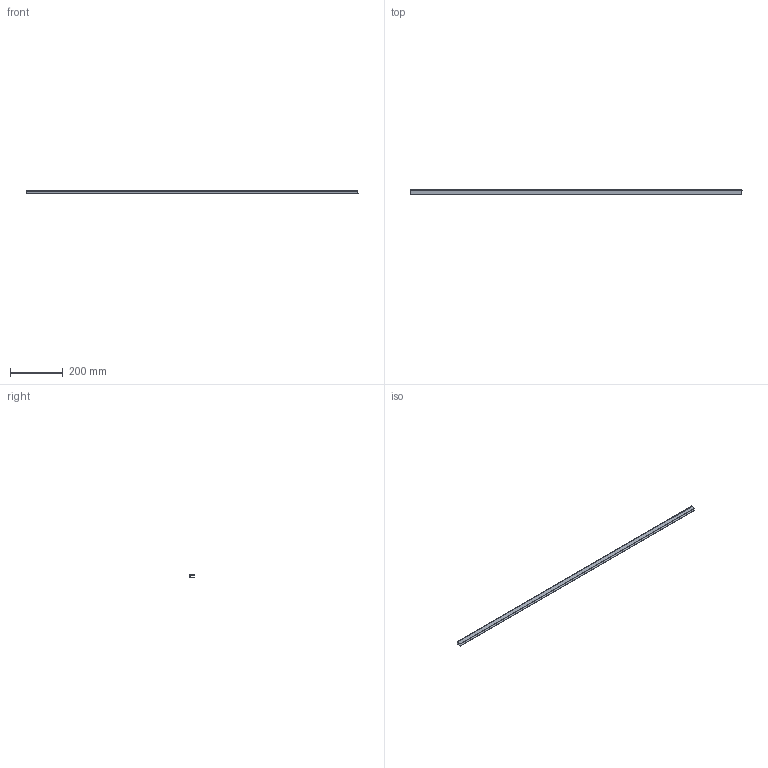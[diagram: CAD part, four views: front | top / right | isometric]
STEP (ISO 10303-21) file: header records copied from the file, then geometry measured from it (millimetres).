
FILE_DESCRIPTION(/* description */ (''),/* implementation_level */ '2;1');
FILE_NAME(/* name */ 'Pos122-GLASLAT T.B.V. PV-SCHERM-Aluminium-4st',/* time_stamp */ '2024-08-06T11:49:43+02:00',/* author */ (''),/* organization */ (''),/* preprocessor_version */ 'ST-DEVELOPER v16.5',/* originating_system */ 'HiCAD 2024 2901.2 Build 361',/* authorisation */ '');
FILE_SCHEMA (('AUTOMOTIVE_DESIGN { 1 0 10303 214 1 1 1 1 }'));
Length unit declared in the file: millimetre
Products named in the file (1): Pos122-GLASLAT T.B.V. PV-SCHERM-Aluminium-4st
Bounding box: 1255 x 17 x 12.5 mm (x, y, z)
Volume: 69652.5 mm3; surface area: 113061 mm2
Topology: 1 solids, 1 shells, 12 faces, 30 edges, 20 vertices
Faces by surface type: plane 12
Entity records: 672 total; most frequent: CARTESIAN_POINT 62, PRESENTATION_STYLE_ASSIGNMENT 61, COLOUR_RGB 61, DRAUGHTING_PRE_DEFINED_CURVE_FONT 60, CURVE_STYLE 60, OVER_RIDING_STYLED_ITEM 60, ORIENTED_EDGE 60, DIRECTION 54
